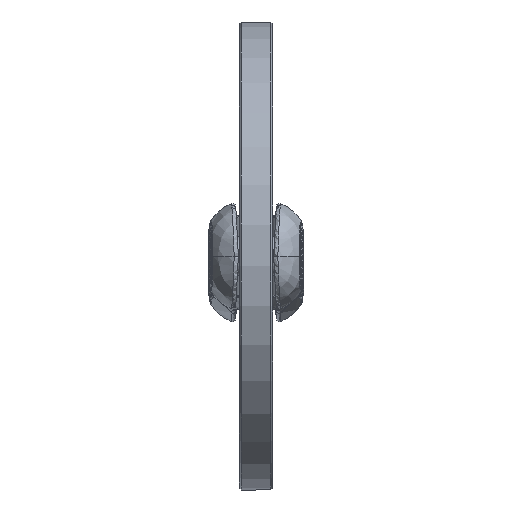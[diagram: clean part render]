
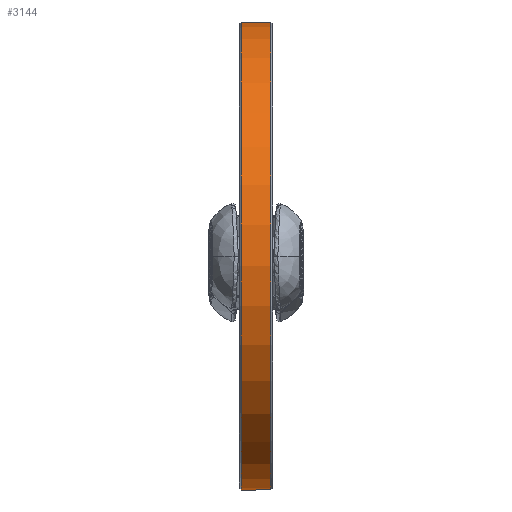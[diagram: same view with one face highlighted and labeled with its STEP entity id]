
A CAD part, top view. The second image highlights one B-rep face of the part: STEP entity #3144.
In plain terms, the highlighted cylindrical face has radius 637.5 mm (diameter 1275 mm), a full revolution.
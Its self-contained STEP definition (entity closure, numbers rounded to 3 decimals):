
#633=CYLINDRICAL_SURFACE($,#3496,637.5);
#761=FACE_BOUND($,#1302,.T.);
#974=FACE_OUTER_BOUND($,#1301,.T.);
#1301=EDGE_LOOP($,(#2877));
#1302=EDGE_LOOP($,(#2878));
#1490=CIRCLE($,#3495,637.5);
#1491=CIRCLE($,#3497,637.5);
#1761=VERTEX_POINT($,#14015);
#1762=VERTEX_POINT($,#14018);
#2138=EDGE_CURVE($,#1761,#1761,#1490,.T.);
#2139=EDGE_CURVE($,#1762,#1762,#1491,.T.);
#2877=ORIENTED_EDGE($,*,*,#2139,.F.);
#2878=ORIENTED_EDGE($,*,*,#2138,.F.);
#3144=ADVANCED_FACE($,(#974,#761),#633,.T.);
#3495=AXIS2_PLACEMENT_3D($,#14016,#4220,#4221);
#3496=AXIS2_PLACEMENT_3D($,#14017,#4222,#4223);
#3497=AXIS2_PLACEMENT_3D($,#14019,#4224,#4225);
#4220=DIRECTION('center_axis',(0.,0.,-1.));
#4221=DIRECTION('ref_axis',(-1.,0.,0.));
#4222=DIRECTION('center_axis',(0.,0.,1.));
#4223=DIRECTION('ref_axis',(-1.,0.,0.));
#4224=DIRECTION('center_axis',(0.,0.,1.));
#4225=DIRECTION('ref_axis',(-1.,0.,0.));
#14015=CARTESIAN_POINT('',(637.5,0.,-40.));
#14016=CARTESIAN_POINT('Origin',(0.,0.,-40.));
#14017=CARTESIAN_POINT('Origin',(0.,0.,0.));
#14018=CARTESIAN_POINT('',(637.5,0.,40.));
#14019=CARTESIAN_POINT('Origin',(0.,0.,40.));
